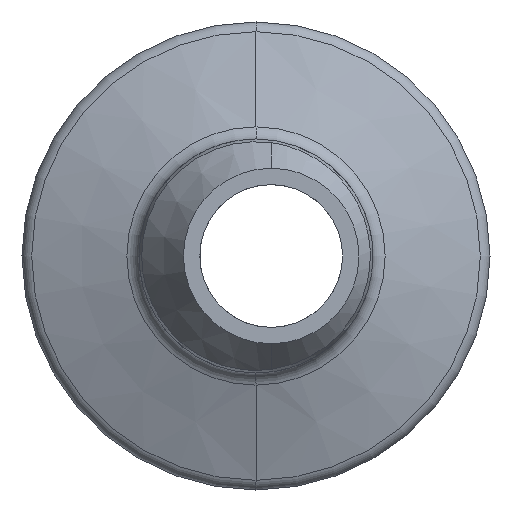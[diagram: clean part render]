
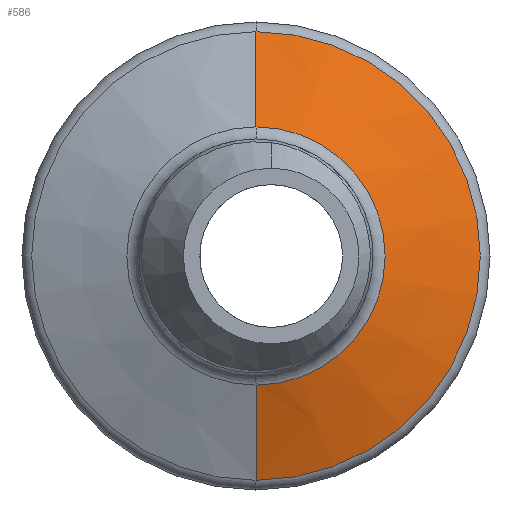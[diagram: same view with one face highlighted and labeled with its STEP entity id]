
A CAD part, left-side view. The second image highlights one B-rep face of the part: STEP entity #586.
In plain terms, the highlighted conical face has half-angle 70 degrees and reference radius 7.008 mm.
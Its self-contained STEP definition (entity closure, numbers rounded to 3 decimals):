
#38 = ORIENTED_EDGE ( 'NONE', *, *, #190, .T. ) ;
#56 = EDGE_LOOP ( 'NONE', ( #806, #1470, #38, #594 ) ) ;
#92 = AXIS2_PLACEMENT_3D ( 'NONE', #749, #744, #745 ) ;
#94 = CARTESIAN_POINT ( 'NONE',  ( 24.491, 0., 7.008 ) ) ;
#132 = CONICAL_SURFACE ( 'NONE', #92, 7.008, 1.222 ) ;
#133 = LINE ( 'NONE', #854, #809 ) ;
#140 = EDGE_CURVE ( 'NONE', #1321, #866, #888, .T. ) ;
#190 = EDGE_CURVE ( 'NONE', #1321, #518, #593, .T. ) ;
#284 = CARTESIAN_POINT ( 'NONE',  ( 26.371, 0., 12.174 ) ) ;
#301 = VERTEX_POINT ( 'NONE', #284 ) ;
#314 = CIRCLE ( 'NONE', #1097, 12.174 ) ;
#518 = VERTEX_POINT ( 'NONE', #991 ) ;
#586 = ADVANCED_FACE ( 'NONE', ( #852 ), #132, .T. ) ;
#593 = LINE ( 'NONE', #1101, #1436 ) ;
#594 = ORIENTED_EDGE ( 'NONE', *, *, #1531, .T. ) ;
#744 = DIRECTION ( 'NONE',  ( 1., 0., 0. ) ) ;
#745 = DIRECTION ( 'NONE',  ( 0., 0., -1. ) ) ;
#749 = CARTESIAN_POINT ( 'NONE',  ( 24.491, 0., 0. ) ) ;
#806 = ORIENTED_EDGE ( 'NONE', *, *, #1373, .F. ) ;
#809 = VECTOR ( 'NONE', #1217, 1000. ) ;
#852 = FACE_OUTER_BOUND ( 'NONE', #56, .T. ) ;
#854 = CARTESIAN_POINT ( 'NONE',  ( 24.491, 0., 7.008 ) ) ;
#866 = VERTEX_POINT ( 'NONE', #94 ) ;
#888 = CIRCLE ( 'NONE', #1551, 7.008 ) ;
#991 = CARTESIAN_POINT ( 'NONE',  ( 26.371, 0., -12.174 ) ) ;
#1097 = AXIS2_PLACEMENT_3D ( 'NONE', #1517, #1503, #1408 ) ;
#1101 = CARTESIAN_POINT ( 'NONE',  ( 24.491, 0., -7.008 ) ) ;
#1184 = CARTESIAN_POINT ( 'NONE',  ( 24.491, 0., -7.008 ) ) ;
#1217 = DIRECTION ( 'NONE',  ( 0.342, 0., 0.94 ) ) ;
#1321 = VERTEX_POINT ( 'NONE', #1184 ) ;
#1373 = EDGE_CURVE ( 'NONE', #866, #301, #133, .T. ) ;
#1408 = DIRECTION ( 'NONE',  ( 0., 0., 1. ) ) ;
#1436 = VECTOR ( 'NONE', #1458, 1000. ) ;
#1458 = DIRECTION ( 'NONE',  ( 0.342, 0., -0.94 ) ) ;
#1470 = ORIENTED_EDGE ( 'NONE', *, *, #140, .F. ) ;
#1503 = DIRECTION ( 'NONE',  ( -1., 0., 0. ) ) ;
#1506 = DIRECTION ( 'NONE',  ( 0., 0., 1. ) ) ;
#1516 = DIRECTION ( 'NONE',  ( -1., 0., 0. ) ) ;
#1517 = CARTESIAN_POINT ( 'NONE',  ( 26.371, 0., 0. ) ) ;
#1531 = EDGE_CURVE ( 'NONE', #518, #301, #314, .T. ) ;
#1551 = AXIS2_PLACEMENT_3D ( 'NONE', #1556, #1516, #1506 ) ;
#1556 = CARTESIAN_POINT ( 'NONE',  ( 24.491, 0., 0. ) ) ;
